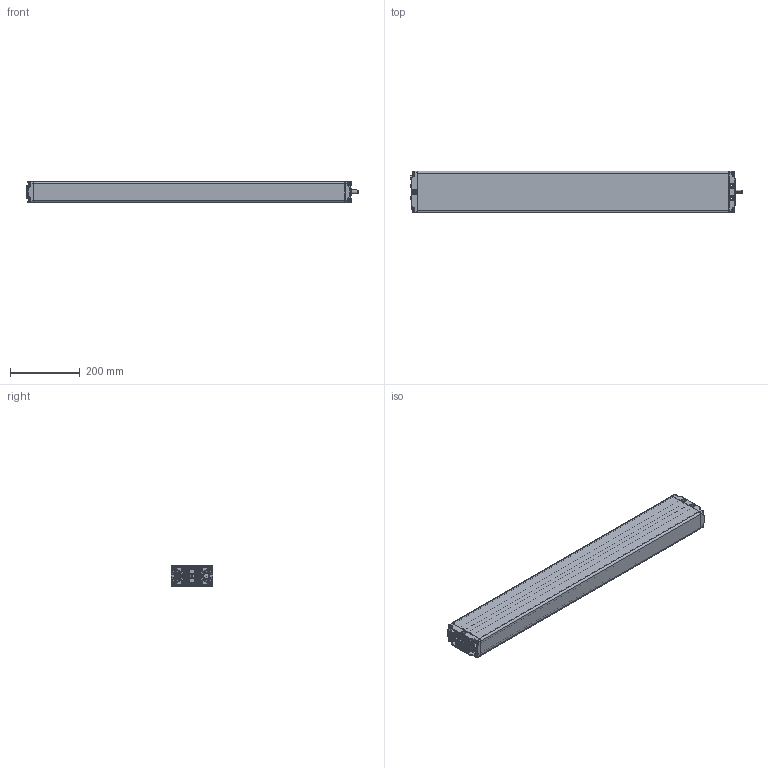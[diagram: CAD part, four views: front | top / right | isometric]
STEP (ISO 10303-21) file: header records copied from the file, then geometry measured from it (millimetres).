
FILE_DESCRIPTION(/* description */ ('Unknown'),/* implementation_level */ '2;1');
FILE_NAME(/* name */ '102.00167 Pumpe PB 5440 W',/* time_stamp */ '2016-10-24T08:51:35+02:00',/* author */ ('Unknown'),/* organization */ ('Unknown'),/* preprocessor_version */ 'ST-DEVELOPER v16.7',/* originating_system */ 'DEX',/* authorisation */ $);
FILE_SCHEMA (('AUTOMOTIVE_DESIGN {1 0 10303 214 3 1 1}'));
Products named in the file (15): 102.00167; 115.00027; 125.00044; 115.00007; 142.00021; 125.00021; 142.00013; 142.00110; 125.00147; 115.00140; 126.00006; 122.00040; 119.00047; 126.00005; 142.00057
Assembly tree (25 placements, depth 3):
  102.00167
    115.00027  x5
      125.00044
      115.00007
      142.00021
      125.00021
    142.00013  x8
    142.00110
    125.00147
    115.00140
      126.00006
      122.00040
    119.00047
    126.00005
    142.00057
Bounding box: 951.97 x 120 x 60.3 mm (x, y, z)
Volume: 1105414.4 mm3; surface area: 775124.9 mm2
Topology: 30 solids, 30 shells, 2551 faces, 6042 edges, 3481 vertices
Faces by surface type: bspline 704, plane 684, cylinder 568, cone 361, torus 174, sphere 60
Full cylindrical faces by diameter (mm): 3.5 x5, 4.1 x5, 4.2 x5, 5 x8, 6.917 x10, 8 x11, 9.8 x8, 10 x3, 10.4 x6, 13.9 x10, 14 x1, 15.8 x1, 17.3 x5, 18 x2, 19 x1, 21.2 x1
Entity records: 97701 total; most frequent: CARTESIAN_POINT 54084, ORIENTED_EDGE 8246, DIRECTION 6581, EDGE_CURVE 4123, AXIS2_PLACEMENT_3D 2648, VERTEX_POINT 2525, FACE_BOUND 1992, EDGE_LOOP 1991
